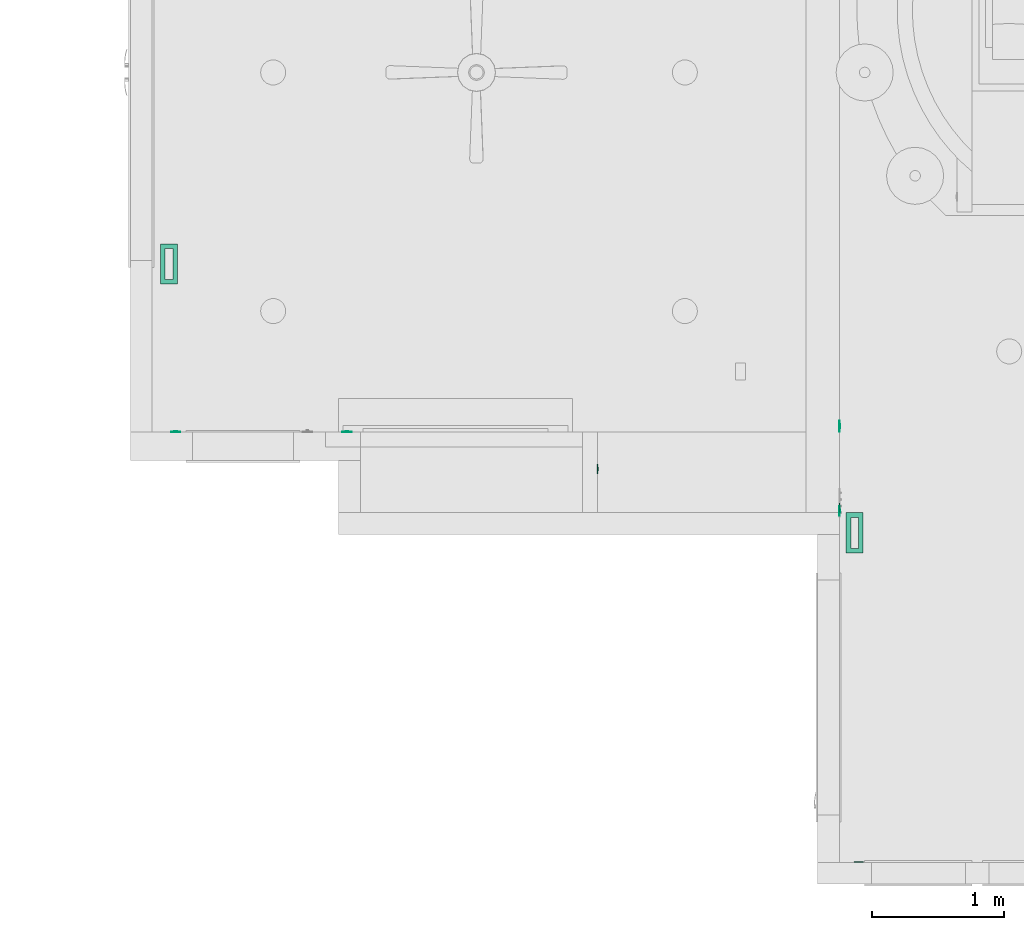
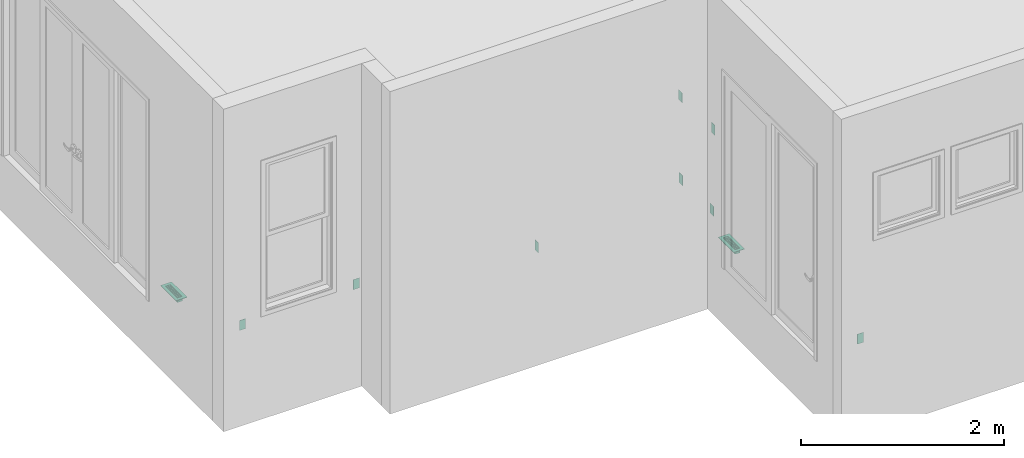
# One storey, part 10 of 103: 8 flow controllers, 2 distribution flow elements.
"""IFC2X3 building model written with IfcOpenShell, lengths in inches."""

from ifc_helpers import new_model, entity, si_unit, converted_unit, derived_unit, money_unit, direction, frame, origin_with_axes, place, context, subcontext, project, spatial, open_shell, faceted_brep, surface_model, source, transform, mapped, type_object, element, save


model = new_model("IFC2X3")

# Units and contexts
model_context = context("Model", 3, precision=0.00039370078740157, world=origin_with_axes(), true_north=direction((0.0, 1.0)))
plan_context = context("Plan", 3, precision=0.00039370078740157, world=origin_with_axes(), true_north=direction((0.0, 1.0)))
body_context = subcontext(model_context, "Body", "Model", "MODEL_VIEW")
ifc_project = project(units=[converted_unit("LENGTHUNIT", "INCH", entity("IfcPositiveLengthMeasure", 0.0254), si_unit("LENGTHUNIT", "METRE"), dimensions=[1, 0, 0, 0, 0, 0, 0]), converted_unit("AREAUNIT", "SQUARE_FOOT", entity("IfcPositiveLengthMeasure", 0.09290304), si_unit("AREAUNIT", "SQUARE_METRE"), dimensions=[2, 0, 0, 0, 0, 0, 0]), si_unit("PLANEANGLEUNIT", "RADIAN"), si_unit("SOLIDANGLEUNIT", "STERADIAN"), money_unit("USD"), converted_unit("TIMEUNIT", "Year", entity("IfcTimeMeasure", 31557600.0), si_unit("TIMEUNIT", "SECOND"), dimensions=[0, 0, 1, 0, 0, 0, 0]), si_unit("MASSUNIT", "GRAM", prefix="KILO"), si_unit("THERMODYNAMICTEMPERATUREUNIT", "DEGREE_CELSIUS"), si_unit("LUMINOUSINTENSITYUNIT", "LUMEN"), si_unit("ENERGYUNIT", "JOULE", prefix="MEGA"), derived_unit("SPECIFICHEATCAPACITYUNIT", [(si_unit("ENERGYUNIT", "JOULE"), 1), (si_unit("MASSUNIT", "GRAM", prefix="KILO"), -1), (si_unit("THERMODYNAMICTEMPERATUREUNIT", "KELVIN"), -1)])], contexts=[model_context, plan_context])

# Site, building, storey
site_placement = place(None, origin_with_axes())
site = spatial("IfcSite", under=ifc_project, at=site_placement, Name="Site", CompositionType="ELEMENT")
building_placement = place(site_placement, origin_with_axes())
building = spatial("IfcBuilding", under=site, at=building_placement, Name="Building", CompositionType="ELEMENT")
storey_placement = place(building_placement, frame((0.0, 0.0, 127.9999999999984), z_axis=(0.0, 0.0, 1.0), x_axis=(1.0, 0.0, 0.0)))
storey = spatial("IfcBuildingStorey", under=building, at=storey_placement, Name="Second Floor", CompositionType="ELEMENT", Elevation=128.0)

# Flow controllers
switching_device_type = type_object("IfcSwitchingDeviceType", Name="Outlet 1 US", PredefinedType="NOTDEFINED")
shared_shape_1 = source(origin_with_axes(), body_context, "Body", "Brep", [
    faceted_brep([(0.39370078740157, -0.03444881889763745, -1.18110236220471), (0.5436477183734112, -0.03444881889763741, -0.7086614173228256), (0.5436477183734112, -0.2165354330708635, -0.7086614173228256), (0.39370078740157, -0.2165354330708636, -1.18110236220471), (-0.3937007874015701, -0.03444881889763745, -1.181102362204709), (-0.543647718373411, -0.03444881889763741, -0.7086614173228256), (-0.39370078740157, -0.03444881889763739, -0.2362204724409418), (0.3937007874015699, -0.03444881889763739, -0.2362204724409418), (-0.196850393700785, -0.03444881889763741, -0.7086614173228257), (-0.196850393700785, -0.0344488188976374, -0.4724409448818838), (-0.275590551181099, -0.0344488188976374, -0.4724409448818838), (-0.275590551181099, -0.03444881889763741, -0.7086614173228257), (0.196850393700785, -0.03444881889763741, -0.7086614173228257), (0.275590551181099, -0.03444881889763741, -0.7086614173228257), (0.275590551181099, -0.0344488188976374, -0.4724409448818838), (0.196850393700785, -0.0344488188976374, -0.4724409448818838), (-0.078740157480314, -0.03444881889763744, -1.102362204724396), (0.078740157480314, -0.03444881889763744, -1.102362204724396), (0.078740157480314, -0.03444881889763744, -1.023622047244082), (0.06819097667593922, -0.03444881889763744, -0.9842519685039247), (0.03937007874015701, -0.03444881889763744, -0.9554310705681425), (0.0, -0.03444881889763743, -0.9448818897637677), (-0.03937007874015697, -0.03444881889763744, -0.9554310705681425), (-0.06819097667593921, -0.03444881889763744, -0.9842519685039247), (-0.078740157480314, -0.03444881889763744, -1.023622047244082), (0.3937007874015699, -0.2165354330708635, -0.2362204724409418), (-0.39370078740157, -0.2165354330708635, -0.2362204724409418), (-0.543647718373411, -0.2165354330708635, -0.7086614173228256), (-0.3937007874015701, -0.2165354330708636, -1.181102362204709), (-0.196850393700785, -0.2165354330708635, -0.7086614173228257), (-0.275590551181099, -0.2165354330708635, -0.7086614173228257), (-0.275590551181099, -0.2165354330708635, -0.4724409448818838), (-0.196850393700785, -0.2165354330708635, -0.4724409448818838), (0.196850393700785, -0.2165354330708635, -0.7086614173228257), (0.196850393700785, -0.2165354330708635, -0.4724409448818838), (0.275590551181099, -0.2165354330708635, -0.4724409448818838), (0.275590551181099, -0.2165354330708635, -0.7086614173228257), (-0.078740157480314, -0.2165354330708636, -1.102362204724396), (-0.078740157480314, -0.2165354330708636, -1.023622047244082), (-0.06819097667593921, -0.2165354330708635, -0.9842519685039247), (-0.03937007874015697, -0.2165354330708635, -0.9554310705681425), (0.0, -0.2165354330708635, -0.9448818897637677), (0.03937007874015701, -0.2165354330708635, -0.9554310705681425), (0.06819097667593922, -0.2165354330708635, -0.9842519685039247), (0.078740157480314, -0.2165354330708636, -1.023622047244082), (0.078740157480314, -0.2165354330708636, -1.102362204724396)], [[[0, 1, 2, 3]], [[0, 4, 5, 6, 7, 1], [8, 9, 10, 11], [12, 13, 14, 15], [16, 17, 18, 19, 20, 21, 22, 23, 24]], [[1, 7, 25, 2]], [[3, 2, 25, 26, 27, 28], [29, 30, 31, 32], [33, 34, 35, 36], [37, 38, 39, 40, 41, 42, 43, 44, 45]], [[4, 0, 3, 28]], [[5, 4, 28, 27]], [[6, 5, 27, 26]], [[7, 6, 26, 25]], [[9, 8, 29, 32]], [[10, 9, 32, 31]], [[11, 10, 31, 30]], [[8, 11, 30, 29]], [[13, 12, 33, 36]], [[14, 13, 36, 35]], [[15, 14, 35, 34]], [[12, 15, 34, 33]], [[17, 16, 37, 45]], [[18, 17, 45, 44]], [[19, 18, 44, 43]], [[20, 19, 43, 42]], [[21, 20, 42, 41]], [[22, 21, 41, 40]], [[23, 22, 40, 39]], [[24, 23, 39, 38]], [[16, 24, 38, 37]]]),
    faceted_brep([(0.39370078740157, -0.03444881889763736, 0.2362204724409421), (0.5436477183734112, -0.03444881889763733, 0.7086614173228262), (0.5436477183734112, -0.2165354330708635, 0.7086614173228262), (0.39370078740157, -0.2165354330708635, 0.2362204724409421), (-0.3937007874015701, -0.03444881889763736, 0.2362204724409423), (-0.543647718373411, -0.03444881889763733, 0.7086614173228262), (-0.39370078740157, -0.0344488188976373, 1.18110236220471), (0.3937007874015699, -0.0344488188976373, 1.18110236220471), (-0.196850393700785, -0.03444881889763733, 0.7086614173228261), (-0.196850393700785, -0.03444881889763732, 0.944881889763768), (-0.275590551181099, -0.03444881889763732, 0.944881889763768), (-0.275590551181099, -0.03444881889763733, 0.7086614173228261), (0.196850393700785, -0.03444881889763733, 0.7086614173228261), (0.275590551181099, -0.03444881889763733, 0.7086614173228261), (0.275590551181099, -0.03444881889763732, 0.944881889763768), (0.196850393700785, -0.03444881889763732, 0.944881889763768), (-0.078740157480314, -0.03444881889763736, 0.3149606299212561), (0.078740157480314, -0.03444881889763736, 0.3149606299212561), (0.078740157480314, -0.03444881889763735, 0.3937007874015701), (0.06819097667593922, -0.03444881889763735, 0.4330708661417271), (0.03937007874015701, -0.03444881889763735, 0.4618917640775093), (0.0, -0.03444881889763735, 0.472440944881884), (-0.03937007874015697, -0.03444881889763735, 0.4618917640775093), (-0.06819097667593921, -0.03444881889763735, 0.4330708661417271), (-0.078740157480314, -0.03444881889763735, 0.3937007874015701), (0.3937007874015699, -0.2165354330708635, 1.18110236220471), (-0.39370078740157, -0.2165354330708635, 1.18110236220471), (-0.543647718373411, -0.2165354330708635, 0.7086614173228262), (-0.3937007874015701, -0.2165354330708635, 0.2362204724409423), (-0.196850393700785, -0.2165354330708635, 0.7086614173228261), (-0.275590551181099, -0.2165354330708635, 0.7086614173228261), (-0.275590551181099, -0.2165354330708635, 0.944881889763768), (-0.196850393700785, -0.2165354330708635, 0.944881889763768), (0.196850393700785, -0.2165354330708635, 0.7086614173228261), (0.196850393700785, -0.2165354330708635, 0.944881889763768), (0.275590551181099, -0.2165354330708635, 0.944881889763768), (0.275590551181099, -0.2165354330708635, 0.7086614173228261), (-0.078740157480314, -0.2165354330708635, 0.3149606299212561), (-0.078740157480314, -0.2165354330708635, 0.3937007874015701), (-0.06819097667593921, -0.2165354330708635, 0.4330708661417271), (-0.03937007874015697, -0.2165354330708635, 0.4618917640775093), (0.0, -0.2165354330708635, 0.472440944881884), (0.03937007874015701, -0.2165354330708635, 0.4618917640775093), (0.06819097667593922, -0.2165354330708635, 0.4330708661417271), (0.078740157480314, -0.2165354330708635, 0.3937007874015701), (0.078740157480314, -0.2165354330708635, 0.3149606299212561)], [[[0, 1, 2, 3]], [[0, 4, 5, 6, 7, 1], [8, 9, 10, 11], [12, 13, 14, 15], [16, 17, 18, 19, 20, 21, 22, 23, 24]], [[1, 7, 25, 2]], [[3, 2, 25, 26, 27, 28], [29, 30, 31, 32], [33, 34, 35, 36], [37, 38, 39, 40, 41, 42, 43, 44, 45]], [[4, 0, 3, 28]], [[5, 4, 28, 27]], [[6, 5, 27, 26]], [[7, 6, 26, 25]], [[9, 8, 29, 32]], [[10, 9, 32, 31]], [[11, 10, 31, 30]], [[8, 11, 30, 29]], [[13, 12, 33, 36]], [[14, 13, 36, 35]], [[15, 14, 35, 34]], [[12, 15, 34, 33]], [[17, 16, 37, 45]], [[18, 17, 45, 44]], [[19, 18, 44, 43]], [[20, 19, 43, 42]], [[21, 20, 42, 41]], [[22, 21, 41, 40]], [[23, 22, 40, 39]], [[24, 23, 39, 38]], [[16, 24, 38, 37]]]),
    faceted_brep([(-1.343503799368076, -0.1377952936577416, -2.327755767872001), (1.343503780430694, -0.1377952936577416, -2.327755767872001), (1.343503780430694, -0.1377952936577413, 2.327755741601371), (-1.343503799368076, -0.1377952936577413, 2.327755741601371), (0.39370078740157, -0.1377952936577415, -1.18110236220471), (-0.3937007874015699, -0.1377952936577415, -1.181102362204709), (-0.5436477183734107, -0.1377952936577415, -0.7086614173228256), (-0.39370078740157, -0.1377952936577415, -0.2362204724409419), (0.3937007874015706, -0.1377952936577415, -0.2362204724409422), (0.5436477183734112, -0.1377952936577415, -0.7086614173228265), (-0.39370078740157, -0.1377952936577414, 1.18110236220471), (0.3937007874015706, -0.1377952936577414, 1.18110236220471), (0.5436477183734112, -0.1377952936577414, 0.7086614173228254), (0.39370078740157, -0.1377952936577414, 0.236220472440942), (-0.3937007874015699, -0.1377952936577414, 0.2362204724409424), (-0.5436477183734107, -0.1377952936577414, 0.7086614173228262), (-1.352419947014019, -0.1366214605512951, -2.336671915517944), (1.352419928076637, -0.1366214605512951, -2.336671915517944), (1.352419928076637, -0.1366214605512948, 2.336671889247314), (-1.352419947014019, -0.1366214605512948, 2.336671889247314), (0.39370078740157, -0.03444881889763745, -1.18110236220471), (-0.3937007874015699, -0.03444881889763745, -1.181102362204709), (-0.5436477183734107, -0.03444881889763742, -0.7086614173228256), (-0.39370078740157, -0.03444881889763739, -0.2362204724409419), (0.3937007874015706, -0.03444881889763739, -0.2362204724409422), (0.5436477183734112, -0.03444881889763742, -0.7086614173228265), (-0.39370078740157, -0.0344488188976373, 1.18110236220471), (0.3937007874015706, -0.0344488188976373, 1.18110236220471), (0.5436477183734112, -0.03444881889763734, 0.7086614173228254), (0.39370078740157, -0.03444881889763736, 0.236220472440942), (-0.3937007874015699, -0.03444881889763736, 0.2362204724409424), (-0.5436477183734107, -0.03444881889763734, 0.7086614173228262), (-1.36786294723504, -0.1277054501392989, -2.352114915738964), (1.367862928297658, -0.1277054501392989, -2.352114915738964), (1.367862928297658, -0.1277054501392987, 2.352114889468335), (-1.36786294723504, -0.1277054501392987, 2.352114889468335), (-1.376778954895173, -0.1122624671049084, -2.361030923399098), (1.376778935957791, -0.1122624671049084, -2.361030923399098), (1.376778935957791, -0.1122624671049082, 2.361030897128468), (-1.376778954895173, -0.1122624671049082, 2.361030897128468), (-1.377952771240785, -0.1033464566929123, -2.362204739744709), (1.377952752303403, -0.1033464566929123, -2.362204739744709), (1.377952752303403, -0.103346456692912, 2.36220471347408), (-1.377952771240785, -0.103346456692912, 2.36220471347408), (-1.377952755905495, 0.0, -2.36220472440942), (1.377952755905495, 0.0, -2.36220472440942), (1.377952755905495, 0.0, 2.36220472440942), (-1.377952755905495, 0.0, 2.36220472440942)], [[[0, 1, 2, 3], [4, 5, 6, 7, 8, 9], [10, 11, 12, 13, 14, 15]], [[1, 0, 16, 17]], [[2, 1, 17, 18]], [[3, 2, 18, 19]], [[0, 3, 19, 16]], [[4, 20, 21, 5]], [[5, 21, 22, 6]], [[6, 22, 23, 7]], [[7, 23, 24, 8]], [[8, 24, 25, 9]], [[9, 25, 20, 4]], [[11, 10, 26, 27]], [[12, 11, 27, 28]], [[13, 12, 28, 29]], [[14, 13, 29, 30]], [[15, 14, 30, 31]], [[10, 15, 31, 26]], [[17, 16, 32, 33]], [[18, 17, 33, 34]], [[19, 18, 34, 35]], [[16, 19, 35, 32]], [[22, 21, 20, 25, 24, 23]], [[28, 27, 26, 31, 30, 29]], [[33, 32, 36, 37]], [[34, 33, 37, 38]], [[35, 34, 38, 39]], [[32, 35, 39, 36]], [[37, 36, 40, 41]], [[38, 37, 41, 42]], [[39, 38, 42, 43]], [[36, 39, 43, 40]], [[41, 40, 44, 45]], [[42, 41, 45, 46]], [[43, 42, 46, 47]], [[40, 43, 47, 44]], [[46, 45, 44, 47]]]),
])
for number, where, z_axis, x_axis, name in (
    (1, (6.500000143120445, 112.0044841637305, 12.99803149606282), (0.0, 0.0, 1.0), (-2.019381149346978e-06, 0.9999999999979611, 0.0), "FU - 029"),
    (2, (-65.499977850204, 123.5002675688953, 13.99803149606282), (0.0, 0.0, 1.0), (-2.019381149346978e-06, 0.9999999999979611, 0.0), "FU - 029"),
    (3, (12.25013967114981, 6.499799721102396, 13.99803149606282), (0.0, 0.0, 1.0), (-0.9999999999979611, -2.019381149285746e-06, 0.0), "FU - 029"),
):
    element("IfcFlowController", number, at=place(storey_placement, frame(where, z_axis=z_axis, x_axis=x_axis)), inside=storey, type_object=switching_device_type, Name=name, context=body_context, shape_type="MappedRepresentation", body=[
        mapped(shared_shape_1, transform((0.0, 0.0, 0.0))),
    ])
shared_shape_2 = source(origin_with_axes(), body_context, "Body", "Brep", [
    faceted_brep([(0.39370078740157, -0.0344488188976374, -0.472440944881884), (0.3937007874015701, -0.03444881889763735, 0.472440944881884), (0.3937007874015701, -0.2165354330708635, 0.472440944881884), (0.39370078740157, -0.2165354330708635, -0.472440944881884), (-0.3937007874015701, -0.0344488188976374, -0.4724409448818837), (-0.39370078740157, -0.03444881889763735, 0.472440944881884), (-0.39370078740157, -0.2165354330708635, 0.472440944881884), (-0.3937007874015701, -0.2165354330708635, -0.4724409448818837)], [[[0, 1, 2, 3]], [[0, 4, 5, 1]], [[1, 5, 6, 2]], [[3, 2, 6, 7]], [[4, 0, 3, 7]], [[5, 4, 7, 6]]]),
    faceted_brep([(1.377952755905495, -0.1377952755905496, -2.36220472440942), (1.377952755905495, -0.1377952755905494, 2.36220472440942), (-1.377952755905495, -0.1377952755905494, 2.36220472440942), (-1.377952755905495, -0.1377952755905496, -2.36220472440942), (-0.3937007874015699, -0.1377952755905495, -0.4724409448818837), (-0.39370078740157, -0.1377952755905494, 0.4724409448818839), (0.3937007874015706, -0.1377952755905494, 0.4724409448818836), (0.39370078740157, -0.1377952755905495, -0.472440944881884), (1.377952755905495, 0.0, 2.36220472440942), (1.377952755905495, 0.0, -2.36220472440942), (-1.377952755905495, 0.0, 2.36220472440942), (-1.377952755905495, 0.0, -2.36220472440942), (-0.3937007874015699, -0.0344488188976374, -0.4724409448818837), (-0.39370078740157, -0.03444881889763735, 0.4724409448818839), (0.3937007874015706, -0.03444881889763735, 0.4724409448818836), (0.39370078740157, -0.0344488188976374, -0.472440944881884)], [[[0, 1, 2, 3], [4, 5, 6, 7]], [[8, 1, 0, 9]], [[10, 2, 1, 8]], [[11, 3, 2, 10]], [[9, 0, 3, 11]], [[5, 4, 12, 13]], [[6, 5, 13, 14]], [[7, 6, 14, 15]], [[4, 7, 15, 12]], [[10, 8, 9, 11]], [[14, 13, 12, 15]]]),
])
for number, where, z_axis, x_axis, name in (
    (4, (-140.0000000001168, 134.5001066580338, 15.49999999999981), (0.0, 0.0, 1.0), (-0.9999999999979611, -2.019381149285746e-06, 0.0), "OBJ-05"),
    (5, (6.499999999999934, 111.0022861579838, 51.99999999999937), (0.0, 0.0, 1.0), (-2.019381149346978e-06, 0.9999999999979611, 0.0), "OBJ-05"),
    (6, (6.49986452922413, 136.5023237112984, 51.99999999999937), (0.0, 0.0, 1.0), (-2.019381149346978e-06, 0.9999999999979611, 0.0), "OBJ-05"),
    (7, (6.499867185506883, 136.0023242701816, 12.99999999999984), (0.0, 0.0, 1.0), (-2.019381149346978e-06, 0.9999999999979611, 0.0), "OBJ-05"),
    (8, (-191.0004321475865, 134.5000036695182, 13.99999999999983), (0.0, 0.0, 1.0), (-0.9999999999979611, -2.019381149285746e-06, 0.0), "OBJ-05"),
):
    element("IfcFlowController", number, at=place(storey_placement, frame(where, z_axis=z_axis, x_axis=x_axis)), inside=storey, type_object=switching_device_type, Name=name, context=body_context, shape_type="MappedRepresentation", body=[
        mapped(shared_shape_2, transform((0.0, 0.0, 0.0))),
    ])

# Distribution flow elements
valve_type = type_object("IfcValveType", Name="Rect Floor Register", PredefinedType="NOTDEFINED")
shared_shape_3 = source(origin_with_axes(), body_context, "Body", "SurfaceModel", [
    faceted_brep([(6.002952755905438, 2.502952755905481, 0.0), (-6.002952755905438, 2.502952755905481, 0.0), (-6.002952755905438, 2.502952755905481, 0.196850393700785), (6.002952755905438, 2.502952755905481, 0.196850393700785), (6.002952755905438, -2.502952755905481, 0.0), (-6.002952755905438, -2.502952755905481, 0.0), (4.624999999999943, 1.124999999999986, 0.0), (-4.624999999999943, 1.124999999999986, 0.0), (-4.624999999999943, -1.124999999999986, 0.0), (4.624999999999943, -1.124999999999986, 0.0), (-6.002952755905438, -2.502952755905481, 0.196850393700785), (6.002952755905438, -2.502952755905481, 0.196850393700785), (4.624999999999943, 1.124999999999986, 0.196850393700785), (4.624999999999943, -1.124999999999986, 0.196850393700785), (-4.624999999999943, -1.124999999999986, 0.196850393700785), (-4.624999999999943, 1.124999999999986, 0.196850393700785)], [[[0, 1, 2, 3]], [[0, 4, 5, 1], [6, 7, 8, 9]], [[1, 5, 10, 2]], [[3, 2, 10, 11], [12, 13, 14, 15]], [[4, 0, 3, 11]], [[5, 4, 11, 10]], [[7, 6, 12, 15]], [[8, 7, 15, 14]], [[9, 8, 14, 13]], [[6, 9, 13, 12]]]),
    surface_model("IfcShellBasedSurfaceModel", [(-4.585629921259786, 0.984251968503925, -0.78740157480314), (4.585629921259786, 0.984251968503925, -0.78740157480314), (4.585629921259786, 0.984251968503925, 0.196850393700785), (-4.585629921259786, 0.984251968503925, 0.196850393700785)], [open_shell([[[0, 1, 2, 3]]])]),
    surface_model("IfcShellBasedSurfaceModel", [(-4.585629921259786, 0.0, -0.78740157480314), (4.585629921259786, 0.0, -0.78740157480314), (4.585629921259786, 0.0, 0.196850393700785), (-4.585629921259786, 0.0, 0.196850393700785)], [open_shell([[[0, 1, 2, 3]]])]),
    surface_model("IfcShellBasedSurfaceModel", [(-4.585629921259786, -0.984251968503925, -0.78740157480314), (4.585629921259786, -0.984251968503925, -0.78740157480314), (4.585629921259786, -0.984251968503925, 0.196850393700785), (-4.585629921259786, -0.984251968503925, 0.196850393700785)], [open_shell([[[0, 1, 2, 3]]])]),
    surface_model("IfcShellBasedSurfaceModel", [(4.429133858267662, -1.085629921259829, -0.78740157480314), (4.429133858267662, 1.085629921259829, -0.78740157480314), (4.429133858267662, 1.085629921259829, 0.196850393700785), (4.429133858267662, -1.085629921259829, 0.196850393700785)], [open_shell([[[0, 1, 2, 3]]])]),
    surface_model("IfcShellBasedSurfaceModel", [(3.444881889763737, -1.085629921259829, -0.78740157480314), (3.444881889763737, 1.085629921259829, -0.78740157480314), (3.444881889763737, 1.085629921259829, 0.196850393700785), (3.444881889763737, -1.085629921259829, 0.196850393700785)], [open_shell([[[0, 1, 2, 3]]])]),
    surface_model("IfcShellBasedSurfaceModel", [(2.460629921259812, -1.085629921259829, -0.78740157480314), (2.460629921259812, 1.085629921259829, -0.78740157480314), (2.460629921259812, 1.085629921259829, 0.196850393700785), (2.460629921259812, -1.085629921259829, 0.196850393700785)], [open_shell([[[0, 1, 2, 3]]])]),
    surface_model("IfcShellBasedSurfaceModel", [(1.476377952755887, -1.085629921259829, -0.78740157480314), (1.476377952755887, 1.085629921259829, -0.78740157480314), (1.476377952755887, 1.085629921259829, 0.196850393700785), (1.476377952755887, -1.085629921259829, 0.196850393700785)], [open_shell([[[0, 1, 2, 3]]])]),
    surface_model("IfcShellBasedSurfaceModel", [(0.4921259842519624, -1.085629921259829, -0.78740157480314), (0.4921259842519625, 1.085629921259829, -0.78740157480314), (0.4921259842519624, 1.085629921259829, 0.196850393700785), (0.4921259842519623, -1.085629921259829, 0.196850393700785)], [open_shell([[[0, 1, 2, 3]]])]),
    surface_model("IfcShellBasedSurfaceModel", [(-0.4921259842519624, -1.085629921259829, -0.78740157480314), (-0.4921259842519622, 1.085629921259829, -0.78740157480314), (-0.4921259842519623, 1.085629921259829, 0.196850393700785), (-0.4921259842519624, -1.085629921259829, 0.196850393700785)], [open_shell([[[0, 1, 2, 3]]])]),
    surface_model("IfcShellBasedSurfaceModel", [(-1.476377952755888, -1.085629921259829, -0.78740157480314), (-1.476377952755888, 1.085629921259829, -0.78740157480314), (-1.476377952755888, 1.085629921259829, 0.196850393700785), (-1.476377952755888, -1.085629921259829, 0.196850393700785)], [open_shell([[[0, 1, 2, 3]]])]),
    surface_model("IfcShellBasedSurfaceModel", [(-2.460629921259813, -1.085629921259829, -0.78740157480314), (-2.460629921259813, 1.085629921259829, -0.78740157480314), (-2.460629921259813, 1.085629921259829, 0.196850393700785), (-2.460629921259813, -1.085629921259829, 0.196850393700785)], [open_shell([[[0, 1, 2, 3]]])]),
    surface_model("IfcShellBasedSurfaceModel", [(-3.444881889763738, -1.085629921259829, -0.78740157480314), (-3.444881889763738, 1.085629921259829, -0.78740157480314), (-3.444881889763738, 1.085629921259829, 0.196850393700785), (-3.444881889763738, -1.085629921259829, 0.196850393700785)], [open_shell([[[0, 1, 2, 3]]])]),
    surface_model("IfcShellBasedSurfaceModel", [(-4.429133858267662, -1.085629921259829, -0.78740157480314), (-4.429133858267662, 1.085629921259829, -0.78740157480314), (-4.429133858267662, 1.085629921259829, 0.196850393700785), (-4.429133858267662, -1.085629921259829, 0.196850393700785)], [open_shell([[[0, 1, 2, 3]]])]),
    surface_model("IfcShellBasedSurfaceModel", [(-4.624999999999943, -1.124999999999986, 0.0), (-4.624999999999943, 1.124999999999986, 0.0), (-4.624999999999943, 1.124999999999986, -1.999999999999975), (-4.624999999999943, -1.124999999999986, -1.999999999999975), (4.624999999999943, 1.124999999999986, 0.0), (4.624999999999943, 1.124999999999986, -1.999999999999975), (4.624999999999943, -1.124999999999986, 0.0), (4.624999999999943, -1.124999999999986, -1.999999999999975)], [open_shell([[[0, 1, 2, 3]], [[1, 4, 5, 2]], [[6, 0, 3, 7]], [[4, 6, 7, 5]]])]),
])
for number, where, z_axis, x_axis, name in (
    (9, (-192.9974672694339, 184.5035780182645, 0.0), (0.0, 0.0, 1.0), (2.019381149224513e-06, -0.9999999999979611, 0.0), "FU - 027"),
    (10, (11.00288566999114, 104.5038539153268, 0.0), (0.0, 0.0, 1.0), (2.019381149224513e-06, -0.9999999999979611, 0.0), "FU - 027"),
):
    element("IfcDistributionFlowElement", number, at=place(storey_placement, frame(where, z_axis=z_axis, x_axis=x_axis)), inside=storey, type_object=valve_type, Name=name, context=body_context, shape_type="MappedRepresentation", body=[
        mapped(shared_shape_3, transform((0.0, 0.0, 0.0))),
    ])

save(model, "model.ifc")
